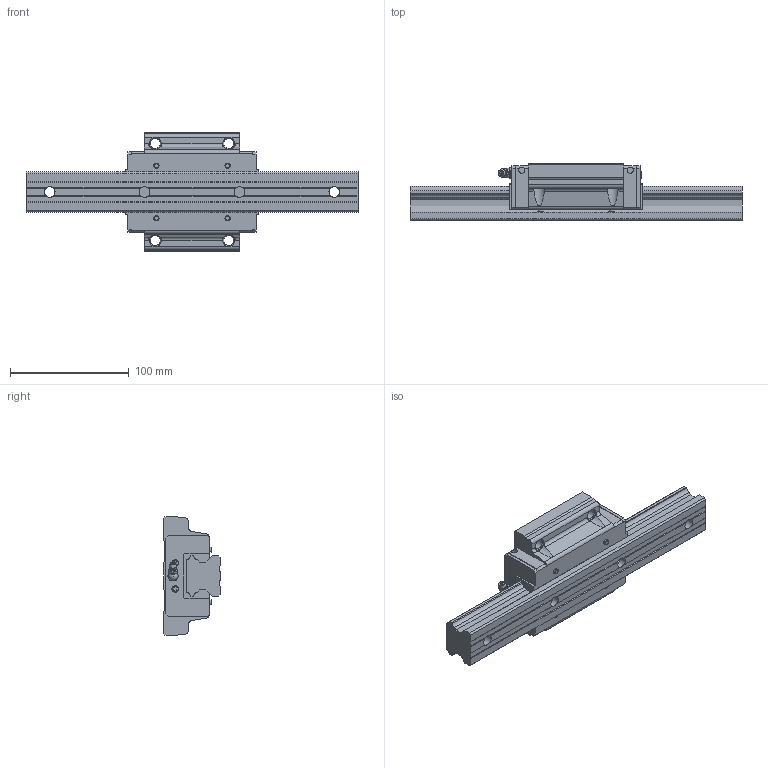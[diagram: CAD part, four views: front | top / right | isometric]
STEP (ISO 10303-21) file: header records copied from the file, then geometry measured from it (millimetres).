
FILE_DESCRIPTION(/* description */ ('STEP AP203'),/* implementation_level */ '2;1');
FILE_NAME(/* name */ 'HSR35M1A1SS-280L_G20_0_B-M6F_84_0_0_0_1',/* time_stamp */ '2024-05-23T06:09:16+02:00',/* author */ ('License CC BY-ND 4.0'),/* organization */ ('CADENAS'),/* preprocessor_version */ 'ST-DEVELOPER v19.3',/* originating_system */ 'PARTsolutions',/* authorisation */ ' ');
FILE_SCHEMA (('CONFIG_CONTROL_DESIGN'));
Length unit declared in the file: millimetre
Products named in the file (4): HSR35M1A1SS-280L_G20_0_B-M6F_84_0_0_0_1; HSR35M1A128020 Rail; HSR35M1ASSB-M6F1 Slider; hsr_ftht_B-M6F_grease_nipple_joint
Assembly tree (3 placements, depth 2):
  HSR35M1A1SS-280L_G20_0_B-M6F_84_0_0_0_1
    HSR35M1A128020 Rail
    HSR35M1ASSB-M6F1 Slider
    hsr_ftht_B-M6F_grease_nipple_joint
Bounding box: 280 x 48 x 100 mm (x, y, z)
Volume: 500330.7 mm3; surface area: 83251.6 mm2
Topology: 3 solids, 3 shells, 286 faces, 772 edges, 501 vertices
Faces by surface type: plane 202, cylinder 50, cone 21, torus 10, sphere 3
Full cylindrical faces by diameter (mm): 4.369 x4, 4.917 x2, 5.2 x4, 5.7 x4, 6 x1, 8 x1, 8.376 x4, 9 x4, 14 x4
Entity records: 8657 total; most frequent: CARTESIAN_POINT 1605, DIRECTION 1408, ORIENTED_EDGE 1396, EDGE_CURVE 698, LINE 504, VECTOR 504, VERTEX_POINT 485, AXIS2_PLACEMENT_3D 452
